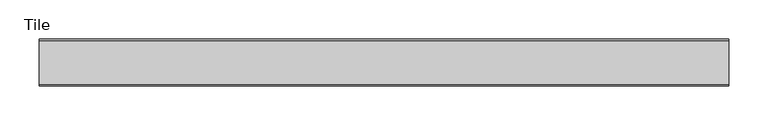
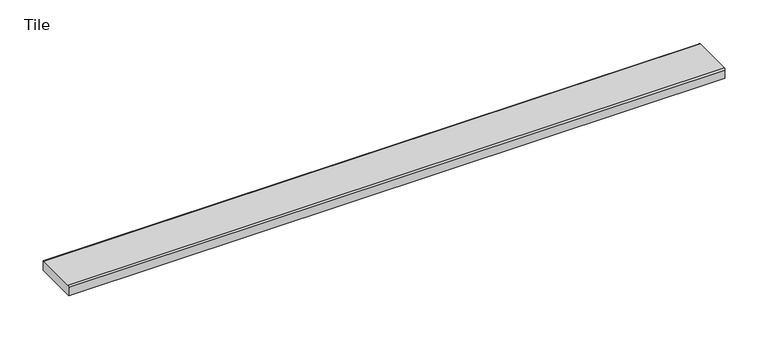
"""IFC4 building model written with IfcOpenShell, lengths in millimetres: sanitary terminal geometry, ZZZ_do not use_PF_UN_grating ShowerDrain C (GE)_ACO : Tile."""

from ifc_helpers import new_model, si_unit, point, frame, frame_2d, origin, place, context, project, spatial, polyline, circle_curve, trimmed, segment, composite_curve, outline, extrude, source, transform, mapped, element, save


def tile_651425de(model_context):
    return source(origin(), model_context, "Body", "SweptSolid", [
        extrude(outline(composite_curve([segment(polyline([(30.0, -14.0), (-30.0, -14.0), (-30.0, -1.977849)]), True, "CONTINUOUS"), segment(trimmed(circle_curve(frame_2d((-28.022151, -1.977849)), 1.977849), [point((-30.0, -1.977849))], [point((-28.022151, 0.0))], False, "CARTESIAN"), True, "CONTINUOUS"), segment(polyline([(-28.022151, 0.0), (28.022151, 0.0)]), True, "CONTINUOUS"), segment(trimmed(circle_curve(frame_2d((28.022151, -1.977849)), 1.977849), [point((28.022151, 0.0))], [point((30.0, -1.977849))], False, "CARTESIAN"), True, "CONTINUOUS"), segment(polyline([(30.0, -1.977849), (30.0, -14.0)]), True, "CONTINUOUS")], self_intersect=False)), frame((-440.5, 0.0, 0.0), z_axis=(1.0, 0.0, 0.0), x_axis=(0.0, 1.0, 0.0)), (0.0, 0.0, 1.0), 881.0),
    ])


if __name__ == "__main__":
    model = new_model("IFC4")
    model_context = context("Model", 3, world=origin())
    ifc_project = project(units=[si_unit("LENGTHUNIT", "METRE", prefix="MILLI")], contexts=[model_context])
    site = spatial("IfcSite", under=ifc_project)
    building = spatial("IfcBuilding", under=site)
    placement = place(None, origin())
    tile_shape = tile_651425de(model_context)
    element("IfcSanitaryTerminal", 1, ObjectType="ZZZ_do not use_PF_UN_grating ShowerDrain C (GE)_ACO : Tile", at=placement, inside=building, context=model_context, shape_type="MappedRepresentation", body=[
        mapped(tile_shape, transform((0.0, 0.0, 0.0), x_axis=(1.0, 0.0, 0.0), y_axis=(0.0, 1.0, 0.0), z_axis=(0.0, 0.0, 1.0))),
    ])
    save(model, "model.ifc")
